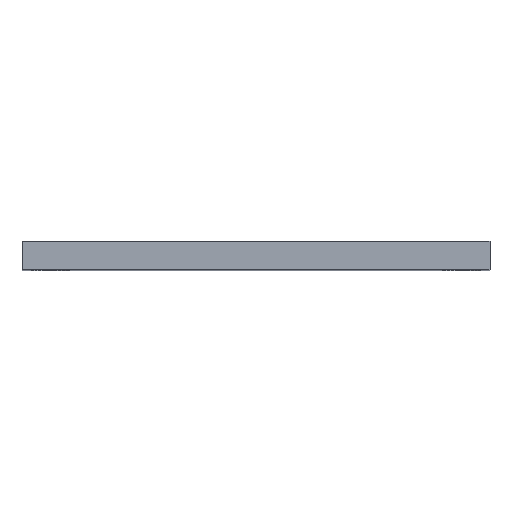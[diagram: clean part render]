
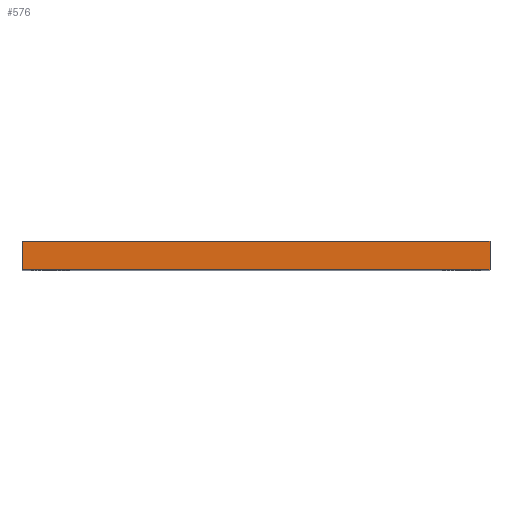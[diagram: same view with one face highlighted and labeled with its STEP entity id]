
A CAD part, top view. The second image highlights one B-rep face of the part: STEP entity #576.
In plain terms, the highlighted planar face has unit normal (0, 0, 1).
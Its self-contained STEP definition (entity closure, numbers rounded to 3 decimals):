
#8 = CARTESIAN_POINT ( 'NONE',  ( -297.85, 0., 297.85 ) ) ;
#14 = CARTESIAN_POINT ( 'NONE',  ( -297.85, 36., 297.85 ) ) ;
#91 = ORIENTED_EDGE ( 'NONE', *, *, #359, .F. ) ;
#93 = EDGE_CURVE ( 'NONE', #938, #564, #790, .T. ) ;
#95 = ORIENTED_EDGE ( 'NONE', *, *, #1169, .T. ) ;
#124 = DIRECTION ( 'NONE',  ( 1., 0., 0. ) ) ;
#148 = DIRECTION ( 'NONE',  ( 0., -1., 0. ) ) ;
#244 = DIRECTION ( 'NONE',  ( 0., -1., 0. ) ) ;
#303 = ORIENTED_EDGE ( 'NONE', *, *, #93, .T. ) ;
#332 = CARTESIAN_POINT ( 'NONE',  ( -297.85, 36., 297.85 ) ) ;
#359 = EDGE_CURVE ( 'NONE', #938, #435, #444, .T. ) ;
#407 = PLANE ( 'NONE',  #438 ) ;
#435 = VERTEX_POINT ( 'NONE', #822 ) ;
#438 = AXIS2_PLACEMENT_3D ( 'NONE', #1037, #764, #850 ) ;
#444 = LINE ( 'NONE', #332, #1057 ) ;
#477 = EDGE_CURVE ( 'NONE', #435, #950, #1102, .T. ) ;
#544 = CARTESIAN_POINT ( 'NONE',  ( 297.85, 36., 297.85 ) ) ;
#564 = VERTEX_POINT ( 'NONE', #1007 ) ;
#576 = ADVANCED_FACE ( 'NONE', ( #727 ), #407, .F. ) ;
#598 = ORIENTED_EDGE ( 'NONE', *, *, #477, .F. ) ;
#638 = DIRECTION ( 'NONE',  ( 1., 0., 0. ) ) ;
#727 = FACE_OUTER_BOUND ( 'NONE', #1110, .T. ) ;
#764 = DIRECTION ( 'NONE',  ( 0., 0., -1. ) ) ;
#782 = CARTESIAN_POINT ( 'NONE',  ( -297.85, 36., 297.85 ) ) ;
#790 = LINE ( 'NONE', #782, #1031 ) ;
#822 = CARTESIAN_POINT ( 'NONE',  ( 297.85, 36., 297.85 ) ) ;
#833 = LINE ( 'NONE', #8, #931 ) ;
#846 = VECTOR ( 'NONE', #148, 1000. ) ;
#850 = DIRECTION ( 'NONE',  ( -1., 0., 0. ) ) ;
#931 = VECTOR ( 'NONE', #638, 1000. ) ;
#938 = VERTEX_POINT ( 'NONE', #14 ) ;
#950 = VERTEX_POINT ( 'NONE', #1129 ) ;
#1007 = CARTESIAN_POINT ( 'NONE',  ( -297.85, 0., 297.85 ) ) ;
#1031 = VECTOR ( 'NONE', #244, 1000. ) ;
#1037 = CARTESIAN_POINT ( 'NONE',  ( -297.85, 36., 297.85 ) ) ;
#1057 = VECTOR ( 'NONE', #124, 1000. ) ;
#1102 = LINE ( 'NONE', #544, #846 ) ;
#1110 = EDGE_LOOP ( 'NONE', ( #95, #598, #91, #303 ) ) ;
#1129 = CARTESIAN_POINT ( 'NONE',  ( 297.85, 0., 297.85 ) ) ;
#1169 = EDGE_CURVE ( 'NONE', #564, #950, #833, .T. ) ;
